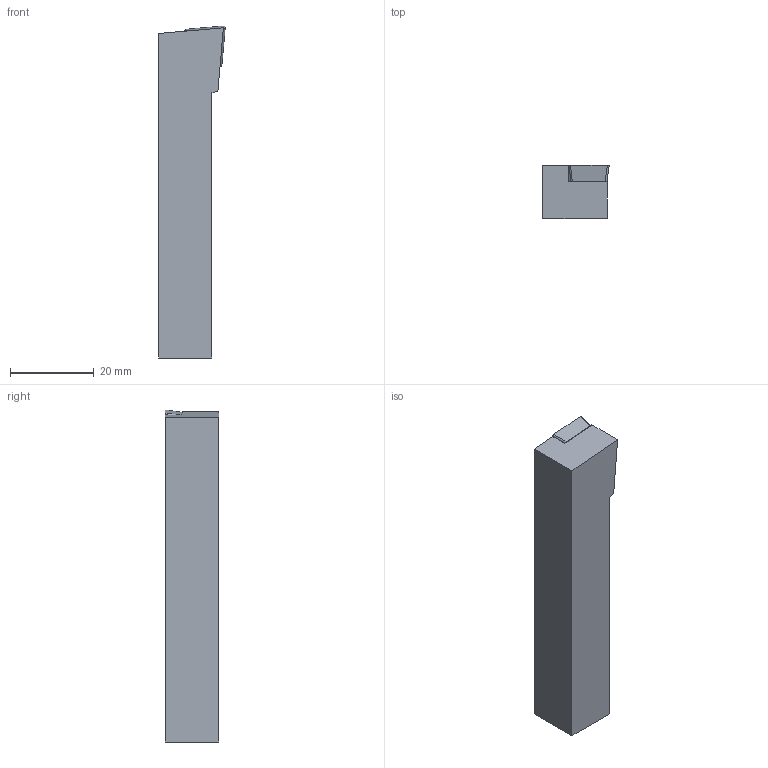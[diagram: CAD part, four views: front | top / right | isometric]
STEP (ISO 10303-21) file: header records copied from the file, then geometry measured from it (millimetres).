
FILE_DESCRIPTION (( 'STEP AP203' ), '1' );
FILE_NAME ('SCLCR08-3K-HAAS.STEP', '2020-11-06T06:40:46', ( '' ), ( '' ), 'SwSTEP 2.0', 'SolidWorks 2015', '' );
FILE_SCHEMA (( 'CONFIG_CONTROL_DESIGN' ));
Length unit declared in the file: millimetre
Products named in the file (4): SCLCR08-3K-HAAS_ル遽; SCLCR08-3K-HAAS; CCMT09T304_ル遽
Assembly tree (3 placements, depth 3):
  SCLCR08-3K-HAAS
    SCLCR08-3K-HAAS
      SCLCR08-3K-HAAS_ル遽
      CCMT09T304_ル遽
Bounding box: 15.87 x 12.7 x 79.37 mm (x, y, z)
Volume: 12960 mm3; surface area: 4739.3 mm2
Topology: 2 solids, 2 shells, 23 faces, 56 edges, 37 vertices
Faces by surface type: plane 17, cylinder 5, cone 1
Full cylindrical faces by diameter (mm): 3.4 x1
Entity records: 1077 total; most frequent: CARTESIAN_POINT 145, DIRECTION 109, ORIENTED_EDGE 108, EDGE_CURVE 54, VECTOR 43, LINE 43, VERTEX_POINT 37, PERSON_AND_ORGANIZATION 35
